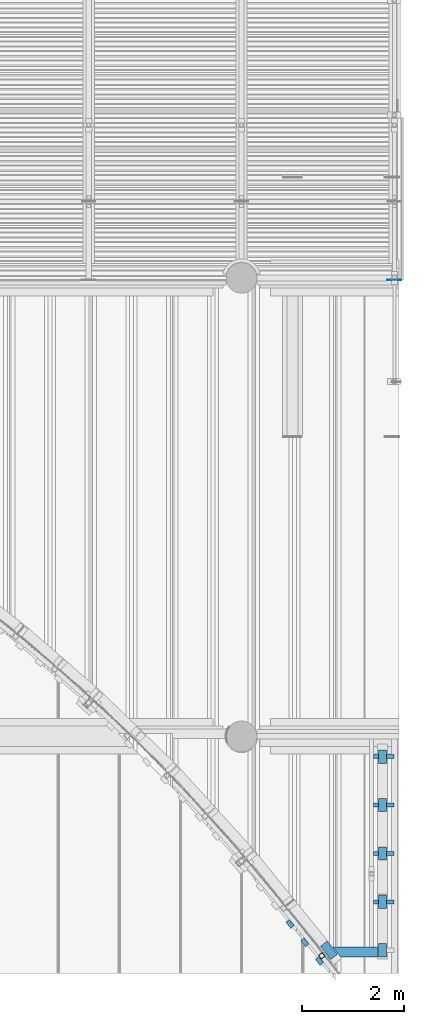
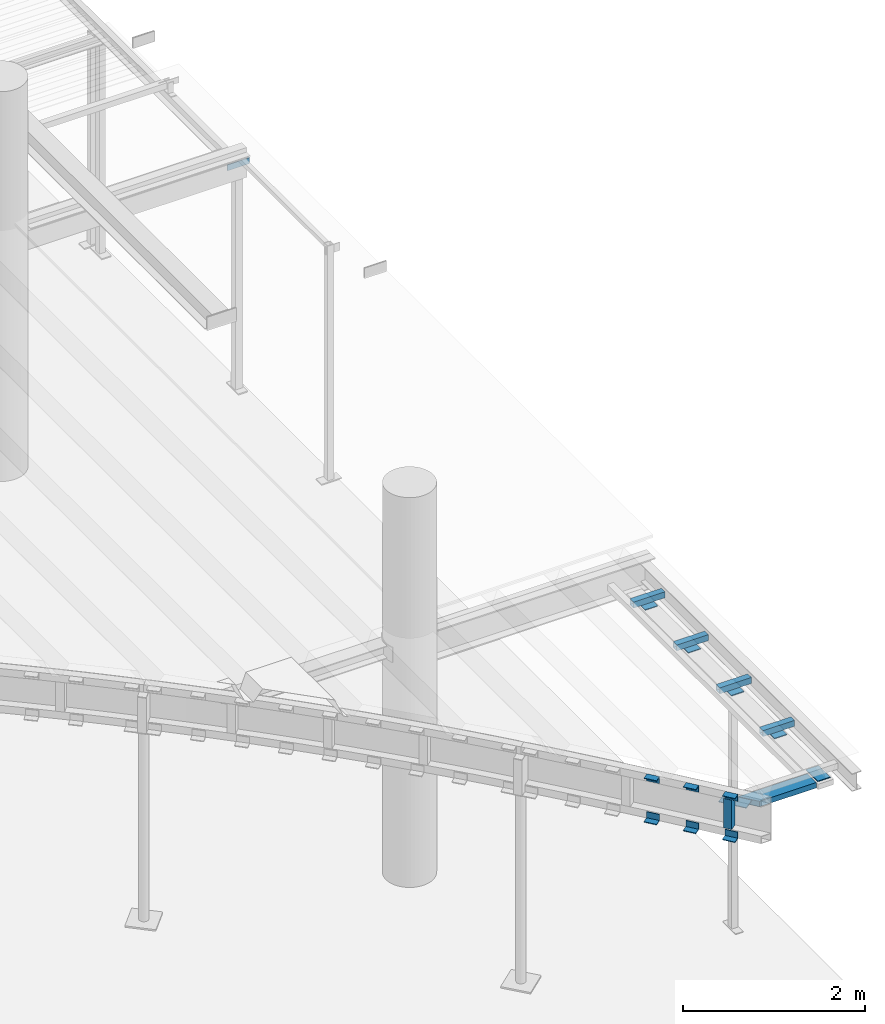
# One storey, part 31 of 98: 19 beams.
"""IFC2X3 building model written with IfcOpenShell, lengths in millimetres."""

from ifc_helpers import new_model, entity, si_unit, converted_unit, derived_unit, direction, frame, origin_with_axes, place, context, subcontext, project, spatial, faceted_brep, material, type_object, element, save


model = new_model("IFC2X3")

# Units and contexts
model_context = context("Model", 3, precision=0.01, world=frame((0.0, 4.29681676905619e-09, 0.0)), true_north=direction((4.01073788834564e-13, 1.0)))
plan_context = context("Plan", 3, precision=0.01, world=frame((0.0, 4.29681676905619e-09, 0.0)), true_north=direction((4.01073788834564e-13, 1.0)))
body_context = subcontext(model_context, "Body", "Model", "MODEL_VIEW")
ifc_project = project(units=[converted_unit("PLANEANGLEUNIT", "DEGREE", entity("IfcPositiveLengthMeasure", 0.0174532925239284), si_unit("PLANEANGLEUNIT", "RADIAN"), dimensions=[0, 0, 0, 0, 0, 0, 0]), si_unit("AREAUNIT", "SQUARE_METRE"), si_unit("LENGTHUNIT", "METRE", prefix="MILLI"), si_unit("MASSUNIT", "GRAM", prefix="KILO"), si_unit("POWERUNIT", "WATT"), si_unit("PRESSUREUNIT", "PASCAL"), si_unit("FORCEUNIT", "NEWTON", prefix="KILO"), si_unit("ELECTRICCURRENTUNIT", "AMPERE"), si_unit("THERMODYNAMICTEMPERATUREUNIT", "DEGREE_CELSIUS"), si_unit("TIMEUNIT", "SECOND"), si_unit("VOLUMEUNIT", "CUBIC_METRE"), derived_unit("LINEARVELOCITYUNIT", [(si_unit("LENGTHUNIT", "METRE"), 1), (si_unit("TIMEUNIT", "SECOND"), -1)]), derived_unit("VOLUMETRICFLOWRATEUNIT", [(si_unit("VOLUMEUNIT", "CUBIC_METRE"), 1), (si_unit("TIMEUNIT", "SECOND"), -1)]), derived_unit("THERMALTRANSMITTANCEUNIT", [(si_unit("POWERUNIT", "WATT"), 1), (si_unit("THERMODYNAMICTEMPERATUREUNIT", "KELVIN"), -1), (si_unit("AREAUNIT", "SQUARE_METRE"), -1)])], contexts=[model_context, plan_context])

# Site, building, storey
site_placement = place(None, frame((0.0, -4.29681676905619e-09, 0.0), z_axis=(0.0, 0.0, 1.0), x_axis=(1.0, 0.0, 0.0)))
site = spatial("IfcSite", under=ifc_project, at=site_placement, Name="Gardermoen", CompositionType="ELEMENT")
building_placement = place(site_placement, frame((0.0, 4.29681676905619e-09, 0.0), z_axis=(0.0, 0.0, 1.0), x_axis=(1.0, 0.0, 0.0)))
building = spatial("IfcBuilding", under=site, at=building_placement, Name="TS", CompositionType="ELEMENT")
storey_placement = place(building_placement, origin_with_axes())
storey = spatial("IfcBuildingStorey", under=building, at=storey_placement, Name="D", CompositionType="ELEMENT", Elevation=0.0)

# Beams
ifc_material_1 = material(Name="STEEL/S355")
beam_type_1 = type_object("IfcBeamType", Name="RHS80*6", PredefinedType="NOTDEFINED")
for number, where, z_axis, x_axis in (
    (1, (531595.0, 404150.0, 206873.0), (0.0, 1.0, 0.0), (1.0, 0.0, 0.0)),
    (2, (531595.0, 402250.0, 206873.0), (0.0, 1.0, 0.0), (1.0, 0.0, 0.0)),
    (3, (531595.0, 405100.0, 206873.0), (0.0, 1.0, 0.0), (1.0, 0.0, 0.0)),
    (4, (531595.0, 403200.0, 206873.0), (0.0, 1.0, 0.0), (1.0, 0.0, 0.0)),
):
    element("IfcBeam", number, at=place(storey_placement, frame(where, z_axis=z_axis, x_axis=x_axis)), inside=storey, type_object=beam_type_1, material=ifc_material_1, Name="STÅLBJELKE", ObjectType="RHS80*6", context=body_context, shape_type="Brep", body=[
        faceted_brep([(0.0, 34.0, -34.0), (0.0, -34.0, -34.0), (401.899460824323, -34.0, -34.0), (401.899460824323, 34.0, -34.0), (0.0, -34.0, 34.0), (401.899460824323, -34.0, 34.0), (0.0, 34.0, 34.0), (401.899460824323, 34.0, 34.0), (0.0, 40.0, -40.0), (0.0, 40.0, 40.0), (401.899460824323, 40.0, 40.0), (401.899460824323, 40.0, -40.0), (0.0, -40.0, 40.0), (401.899460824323, -40.0, 40.0), (0.0, -40.0, -40.0), (401.899460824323, -40.0, -40.0)], [[[0, 1, 2, 3]], [[1, 4, 5, 2]], [[4, 6, 7, 5]], [[6, 0, 3, 7]], [[8, 9, 10, 11]], [[9, 12, 13, 10]], [[12, 14, 15, 13]], [[14, 8, 11, 15]], [[13, 15, 11, 10], [5, 7, 3, 2]], [[14, 12, 9, 8], [6, 4, 1, 0]]]),
    ])
beam_type_2 = type_object("IfcBeamType", Name="L90*9", PredefinedType="NOTDEFINED")
for number, where, z_axis, x_axis in (
    (5, (530001.23783705, 401760.113405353, 207055.0), (0.0, 0.0, -1.0), (-0.629212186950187, 0.777233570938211, 0.0)),
    (6, (530291.264574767, 401397.809218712, 207055.0), (0.0, 0.0, -1.0), (-0.62377078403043, 0.781607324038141, 0.0)),
    (7, (530578.754904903, 401033.489109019, 207055.0), (0.0, 0.0, -1.0), (-0.618298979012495, 0.785942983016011, 0.0)),
    (8, (530001.23783705, 401760.113405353, 206550.0), (-0.777233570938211, -0.629212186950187, 0.0), (-0.629212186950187, 0.777233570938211, 0.0)),
    (9, (530291.264574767, 401397.809218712, 206550.0), (-0.781607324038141, -0.62377078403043, 0.0), (-0.62377078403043, 0.781607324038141, 0.0)),
    (10, (530578.754904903, 401033.489109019, 206550.0), (-0.785942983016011, -0.618298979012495, 0.0), (-0.618298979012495, 0.785942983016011, 0.0)),
):
    element("IfcBeam", number, at=place(storey_placement, frame(where, z_axis=z_axis, x_axis=x_axis)), inside=storey, type_object=beam_type_2, material=ifc_material_1, Name="STÅLBJELKE", ObjectType="L90*9", context=body_context, shape_type="Brep", body=[
        faceted_brep([(3.49245965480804e-10, 45.0, -45.0), (-3.20142135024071e-10, 45.0, 45.0), (150.176599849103, 44.999999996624, 45.0), (150.176599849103, 44.999999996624, -45.0), (6.98491930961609e-10, 36.0, 45.0000000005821), (150.176599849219, 35.999999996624, 45.0), (-4.07453626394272e-10, 36.0, -36.0000000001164), (150.176599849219, 35.999999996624, -36.0), (-5.23868948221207e-10, -45.0, -36.0000000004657), (150.176599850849, -45.0000000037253, -36.0), (3.49245965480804e-10, -45.0, -45.0), (150.176599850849, -45.0000000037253, -45.0)], [[[0, 1, 2, 3]], [[1, 4, 5, 2]], [[4, 6, 7, 5]], [[6, 8, 9, 7]], [[8, 10, 11, 9]], [[10, 0, 3, 11]], [[5, 7, 9, 11, 3, 2]], [[10, 8, 6, 4, 1, 0]]]),
    ])
ifc_material_2 = material(Name="TIMBER/GL36c")
beam_type_3 = type_object("IfcBeamType", Name="PL73*198", PredefinedType="NOTDEFINED")
beam_1_placement = place(storey_placement, frame((530681.99999723, 401266.789780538, 206786.5), z_axis=(0.0, 1.0, 0.0), x_axis=(1.0, 0.0, 0.0)))
element("IfcBeam", 11, at=beam_1_placement, inside=storey, type_object=beam_type_3, material=ifc_material_2, Name="TREBJELKE", ObjectType="PL73*198", context=body_context, shape_type="Brep", body=[
    faceted_brep([(265.574433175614, 36.5, -98.9999999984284), (105.171740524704, 36.5, 99.0000000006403), (988.997639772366, 36.5, 99.000000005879), (988.99763977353, 36.5, -98.999999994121), (105.171740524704, -36.5, 99.0000000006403), (988.997639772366, -36.5, 99.000000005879), (265.574433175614, -36.5, -98.9999999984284), (988.99763977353, -36.5, -98.999999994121)], [[[0, 1, 2, 3]], [[1, 4, 5, 2]], [[4, 6, 7, 5]], [[6, 0, 3, 7]], [[5, 7, 3, 2]], [[6, 4, 1, 0]]]),
])
beam_type_4 = type_object("IfcBeamType", Name="PL10*160", PredefinedType="NOTDEFINED")
for number, where, z_axis, x_axis in (
    (12, (531849.998902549, 404020.0, 206828.0), (-0.999999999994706, 3.2539999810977e-06, 3.2159732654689e-11), (3.2539999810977e-06, 0.999999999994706, 7.46105862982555e-18)),
    (13, (531849.998902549, 402120.0, 206828.0), (-0.999999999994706, 3.2539999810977e-06, 3.2159732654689e-11), (3.2539999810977e-06, 0.999999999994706, 7.46105862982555e-18)),
):
    element("IfcBeam", number, at=place(storey_placement, frame(where, z_axis=z_axis, x_axis=x_axis)), inside=storey, type_object=beam_type_4, material=ifc_material_1, Name="STÅLBJELKE", ObjectType="PL10*160", context=body_context, shape_type="Brep", body=[
        faceted_brep([(0.0, -5.0, 0.0), (-0.000675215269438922, -5.0, 160.000000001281), (-0.000675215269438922, 5.0, 160.000000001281), (0.0, 5.0, 0.0), (259.997467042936, -5.0, 159.999999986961), (259.997467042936, 5.0, 159.999999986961), (260.000000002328, -5.0, -1.92085281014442e-08), (260.000000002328, 5.0, -1.92085281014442e-08)], [[[0, 1, 2, 3]], [[1, 4, 5, 2]], [[4, 6, 7, 5]], [[6, 0, 3, 7]], [[5, 7, 3, 2]], [[6, 4, 1, 0]]]),
    ])
beam_2_placement = place(storey_placement, frame((530879.808854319, 401217.322735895, 206828.0), z_axis=(-0.788008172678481, -0.615664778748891, 0.0), x_axis=(-0.615664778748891, 0.788008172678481, 0.0)))
element("IfcBeam", 14, at=beam_2_placement, inside=storey, type_object=beam_type_4, material=ifc_material_1, Name="STÅLBJELKE", ObjectType="PL10*160", context=body_context, shape_type="Brep", body=[
    faceted_brep([(0.0, -5.0, 0.0), (2.80737949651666e-05, -5.0, 159.999679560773), (2.80737949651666e-05, 5.0, 159.999679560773), (0.0, 5.0, 0.0), (330.000152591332, -5.0, 159.999679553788), (330.000152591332, 5.0, 159.999679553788), (330.002014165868, -5.0, -3.72529029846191e-09), (330.002014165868, 5.0, -3.72529029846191e-09)], [[[0, 1, 2, 3]], [[1, 4, 5, 2]], [[4, 6, 7, 5]], [[6, 0, 3, 7]], [[5, 7, 3, 2]], [[6, 4, 1, 0]]]),
])
for number, where, z_axis, x_axis in (
    (15, (531849.998902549, 404970.0, 206828.0), (-0.999999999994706, 3.2539999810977e-06, 3.2159732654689e-11), (3.2539999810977e-06, 0.999999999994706, 7.46105862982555e-18)),
    (16, (531849.998902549, 403070.0, 206828.0), (-0.999999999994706, 3.2539999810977e-06, 3.2159732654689e-11), (3.2539999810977e-06, 0.999999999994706, 7.46105862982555e-18)),
    (17, (531849.998902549, 401170.0, 206828.0), (-0.999999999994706, 3.2539999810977e-06, 3.2159732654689e-11), (3.2539999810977e-06, 0.999999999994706, 7.46105862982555e-18)),
):
    element("IfcBeam", number, at=place(storey_placement, frame(where, z_axis=z_axis, x_axis=x_axis)), inside=storey, type_object=beam_type_4, material=ifc_material_1, Name="STÅLBJELKE", ObjectType="PL10*160", context=body_context, shape_type="Brep", body=[
        faceted_brep([(0.0, -5.0, 0.0), (-0.000675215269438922, -5.0, 160.000000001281), (-0.000675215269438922, 5.0, 160.000000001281), (0.0, 5.0, 0.0), (259.997467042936, -5.0, 159.999999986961), (259.997467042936, 5.0, 159.999999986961), (260.000000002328, -5.0, -1.92085281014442e-08), (260.000000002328, 5.0, -1.92085281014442e-08)], [[[0, 1, 2, 3]], [[1, 4, 5, 2]], [[4, 6, 7, 5]], [[6, 0, 3, 7]], [[5, 7, 3, 2]], [[6, 4, 1, 0]]]),
    ])
beam_type_5 = type_object("IfcBeamType", Name="RHS100*6.3", PredefinedType="NOTDEFINED")
beam_3_placement = place(storey_placement, frame((530576.253005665, 401190.317007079, 206605.0), z_axis=(-0.783693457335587, -0.621147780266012, 0.0), x_axis=(0.0, 0.0, 1.0)))
element("IfcBeam", 18, at=beam_3_placement, inside=storey, type_object=beam_type_5, material=ifc_material_1, Name="STÅLBJELKE", ObjectType="RHS100*6.3", context=body_context, shape_type="Brep", body=[
    faceted_brep([(0.0, 43.6999998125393, -43.6999998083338), (0.0, -43.6999998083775, -43.6999998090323), (395.0, -43.6999998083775, -43.6999998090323), (395.0, 43.6999998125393, -43.6999998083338), (0.0, -43.6999998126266, 43.699999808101), (395.0, -43.6999998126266, 43.699999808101), (0.0, 43.6999998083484, 43.6999998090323), (395.0, 43.6999998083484, 43.6999998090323), (4.07453626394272e-10, 50.0, -50.0), (-3.49245965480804e-10, 50.0, 50.0), (394.999999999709, 50.0, 50.0), (394.999999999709, 50.0, -50.0), (-3.49245965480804e-10, -50.0, 50.0), (394.999999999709, -50.0, 50.0), (4.07453626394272e-10, -50.0, -50.0), (394.999999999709, -50.0, -50.0)], [[[0, 1, 2, 3]], [[1, 4, 5, 2]], [[4, 6, 7, 5]], [[6, 0, 3, 7]], [[8, 9, 10, 11]], [[9, 12, 13, 10]], [[12, 14, 15, 13]], [[14, 8, 11, 15]], [[13, 15, 11, 10], [5, 7, 3, 2]], [[14, 12, 9, 8], [6, 4, 1, 0]]]),
])
beam_type_6 = type_object("IfcBeamType", Name="PL80*10", PredefinedType="NOTDEFINED")
beam_4_placement = place(storey_placement, frame((532140.0, 414463.981078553, 206959.999718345), z_axis=(0.0, 0.0, -1.0), x_axis=(-0.999999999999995, -9.99999902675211e-08, 0.0)))
element("IfcBeam", 19, at=beam_4_placement, inside=storey, type_object=beam_type_6, material=ifc_material_1, Name="STÅLBJELKE", ObjectType="PL80*10", context=body_context, shape_type="Brep", body=[
    faceted_brep([(0.0, 5.00000000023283, -39.9999999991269), (0.0, 4.99999999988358, 39.9999999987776), (279.9999720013, 4.99999999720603, 40.0), (279.9999720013, 4.99999999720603, -40.0), (0.0, -5.00000000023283, 39.9999999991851), (279.999972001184, -5.00000000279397, 40.0), (0.0, -4.99999999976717, -39.9999999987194), (279.999972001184, -5.00000000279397, -40.0)], [[[0, 1, 2, 3]], [[1, 4, 5, 2]], [[4, 6, 7, 5]], [[6, 0, 3, 7]], [[5, 7, 3, 2]], [[6, 4, 1, 0]]]),
])

save(model, "model.ifc")
